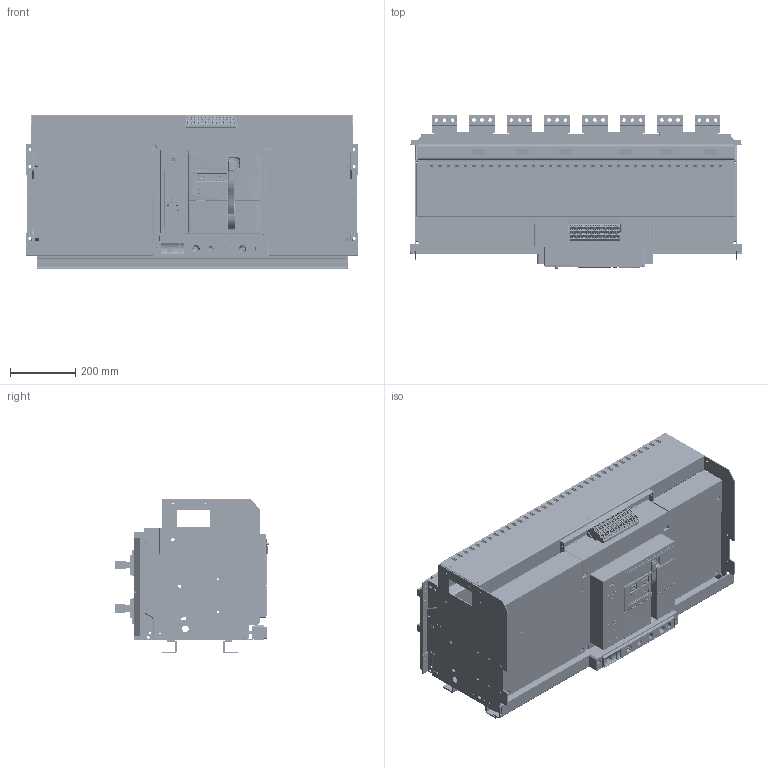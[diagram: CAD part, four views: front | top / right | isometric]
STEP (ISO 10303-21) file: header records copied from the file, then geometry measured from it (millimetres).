
FILE_DESCRIPTION((''),'2;1');
FILE_NAME('NA8-7500-5000-4P_ASM','2020-03-17T16:44:59',('lcc'),(''),'CREO PARAMETRIC BY PTC INC, 2018020','CREO PARAMETRIC BY PTC INC, 2018020','');
FILE_SCHEMA(('CONFIG_CONTROL_DESIGN','SHAPE_APPEARANCE_LAYERS_GROUPS'));
Products named in the file (41): 8050A0306119N; 8050A0306118; 8050A0306117; 8300A0304104; 8ZTD-300-536; 8ZTD-060-207; 8300A0101114; 8300A0101116; 8073A0306102; 8140A0306104; 8150A0306106; 5073A1526102_ASM; 8073A0306103; 4PJIZUO-01; 4PJIZUO-02; 8580A0412115; 8ZTD-253-779; 8ZTD-253-780; 8ZTD-253-782; 8ZTD-227-004; 8ZTD-321-090; 8ZTD-253-577; 8-040-432; 8-004-030; 8-320-094; 8-860-KZQ; 8580A0412008; 8ZTD-024-837; 8ZTD-557-514; 8ZTD-557-515; 8ZTD-557-516; 8ZTD-557-517; M3_GB6170; M3X8_GB818; 8ZTD-141-185; 8ZTD-141-184; 5ZTD-558-712_ASM; 8ZTD-860-699; 8ZTD-064-136; 5ZTD-558-695-4000_ASM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
Assembly tree (87 placements, depth 4):
  NA8-7500-5000-4P_ASM
    8050A0306119N
    8050A0306118
    8050A0306117
    8300A0304104
    8ZTD-300-536
    8ZTD-060-207
    8300A0101114
    8300A0101116
    5073A1526102_ASM
      8073A0306102
      8140A0306104  x2
      8150A0306106  x5
    8073A0306103  x2
    4PJIZUO-01
    4PJIZUO-02
    8580A0412115  x8
    8ZTD-253-779
    8ZTD-253-780
    8ZTD-253-782
    8ZTD-227-004
    8ZTD-321-090
    8ZTD-253-577
    8-040-432
    8-004-030
    8-320-094
    8-860-KZQ
    8580A0412008  x16
    5ZTD-558-695-4000_ASM
      5ZTD-558-712_ASM  x14
        8ZTD-024-837
        8ZTD-557-514
        8ZTD-557-515
        8ZTD-557-516
        8ZTD-557-517
        M3_GB6170
        M3X8_GB818
        8ZTD-141-185
        8ZTD-141-184
      8ZTD-860-699
      8ZTD-064-136
Bounding box: 1016 x 468.52 x 474 mm (x, y, z)
Volume: 37798597.3 mm3; surface area: 6828671.4 mm2
Topology: 265 solids, 267 shells, 24275 faces, 65887 edges, 42631 vertices
Faces by surface type: plane 16334, cylinder 4913, cone 1050, bspline 918, torus 451, sphere 384, extrusion 225
Entity records: 419201 total; most frequent: CARTESIAN_POINT 78784, ORIENTED_EDGE 50957, DIRECTION 47899, PRESENTATION_STYLE_ASSIGNMENT 28360, STYLED_ITEM 28067, EDGE_CURVE 25486, CURVE_STYLE 24859, VECTOR 18449
